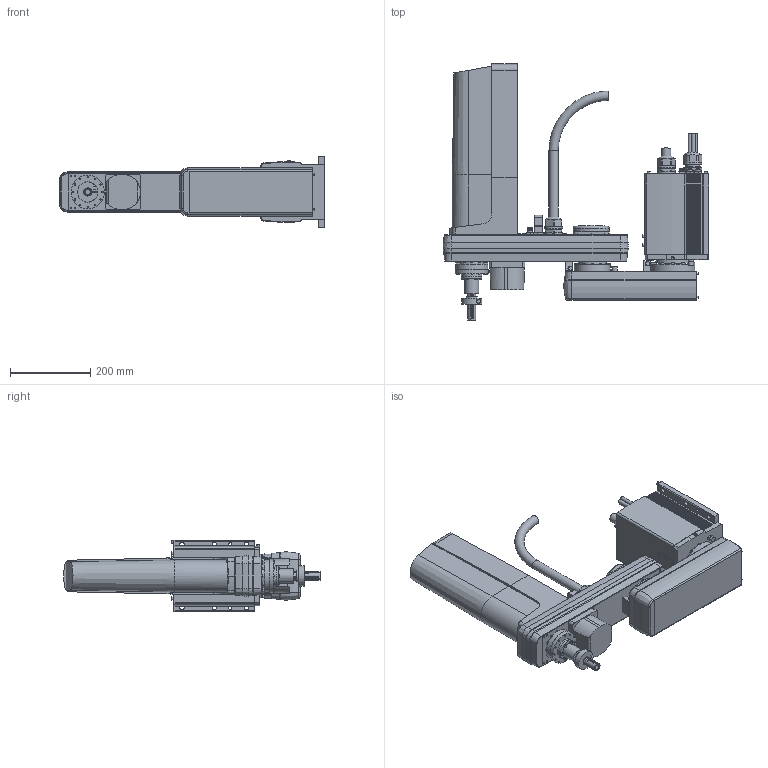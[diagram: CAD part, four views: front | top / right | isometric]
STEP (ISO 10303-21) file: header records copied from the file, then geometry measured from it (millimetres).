
FILE_DESCRIPTION( ( 'STEP AP214' ), '1' );
FILE_NAME( 'p:/temp/worker_5/1628_1640/app_58_02015071418325163536784192d056f_00_00_00_000/STEP/YK500XGS-300_2_14.stp', ' ', ( ' ' ), ( ' ' ), 'PSStep 15.0.47', 'PARTsolutions', ' ' );
FILE_SCHEMA( ( 'AUTOMOTIVE_DESIGN { 1 0 10303 214 1 1 1 1 }' ) );
Length unit declared in the file: millimetre
Products named in the file (5): YK500XGS-300; _YK500XGS-200-1; _YK500XGS-200-2; _YK500XGS-300-3; _YK500XGS-300-4
Assembly tree (4 placements, depth 2):
  YK500XGS-300
    _YK500XGS-200-1
    _YK500XGS-200-2
    _YK500XGS-300-3
    _YK500XGS-300-4
Bounding box: 660.5 x 637.5 x 178 mm (x, y, z)
Volume: 17457741.9 mm3; surface area: 911077.9 mm2
Topology: 4 solids, 4 shells, 1175 faces, 2809 edges, 1820 vertices
Faces by surface type: plane 690, cylinder 317, cone 137, torus 16, bspline 15
Full cylindrical faces by diameter (mm): 2.6 x2, 3 x12, 3.242 x4, 4 x1, 4.5 x2, 4.8 x2, 5.5 x30, 6 x6, 6.28 x1, 7 x25, 7.6 x4, 8 x3, 8.1 x4, 8.3 x4, 9.5 x4, 9.53 x4, 10 x6, 10.8 x2, 11 x7, 11.4 x6, 11.8 x2, 12.5 x4, 12.8 x4, 13 x5, 13.835 x1, 14 x1, 20 x2, 23 x2, 34 x1, 35 x3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
Entity records: 42948 total; most frequent: CARTESIAN_POINT 7058, DIRECTION 5547, ORIENTED_EDGE 5038, EDGE_CURVE 2519, AXIS2_PLACEMENT_3D 2072, VERTEX_POINT 1743, EDGE_LOOP 1609, LINE 1403
